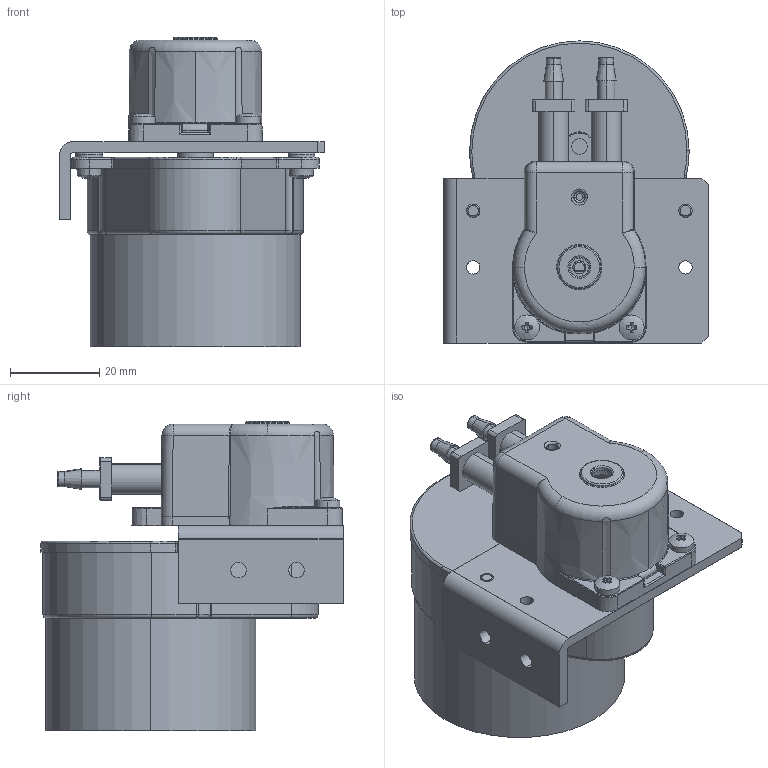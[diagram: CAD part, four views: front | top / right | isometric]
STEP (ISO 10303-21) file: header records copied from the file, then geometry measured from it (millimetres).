
FILE_DESCRIPTION (( 'STEP AP203' ), '1' );
FILE_NAME ('100 series ac r motor.STEP', '2020-10-22T13:01:24', ( '' ), ( '' ), 'SwSTEP 2.0', 'SolidWorks 2017', '' );
FILE_SCHEMA (( 'CONFIG_CONTROL_DESIGN' ));
Length unit declared in the file: millimetre
Products named in the file (19): 2; 6; 100 series ac  r motor; 1.6mm tube; screw_iso7045-m3x6-h; 52384-1 120 BASE_1; 1; 52384-2 120 series 1.6 tube grip_1; 5; A.C motor and bracketl; 4; 52384-2 120 series 0.8 tube grip_1; 3; 52417-1 120 series assembly_1; 9; micro 4; 52384-2 120 COVER_1; 7; 8
Assembly tree (22 placements, depth 3):
  100 series ac  r motor
    52417-1 120 series assembly_1
      52384-2 120 COVER_1
      52384-1 120 BASE_1
      52384-2 120 series 1.6 tube grip_1
      52384-2 120 series 0.8 tube grip_1
    screw_iso7045-m3x6-h  x2
    1.6mm tube  x2
    micro 4  x2
    A.C motor and bracketl
      1
      2
      3
      4
      5
      6
      7
      8
      9
    2
Bounding box: 59.5 x 67.87 x 69.41 mm (x, y, z)
Volume: 108380.4 mm3; surface area: 40567.3 mm2
Topology: 20 solids, 22 shells, 970 faces, 2480 edges, 1563 vertices
Faces by surface type: cylinder 328, plane 324, torus 124, bspline 93, cone 79, sphere 22
Entity records: 33257 total; most frequent: CARTESIAN_POINT 11208, ORIENTED_EDGE 4312, DIRECTION 4064, EDGE_CURVE 2156, AXIS2_PLACEMENT_3D 1574, VERTEX_POINT 1363, EDGE_LOOP 917, VECTOR 916
